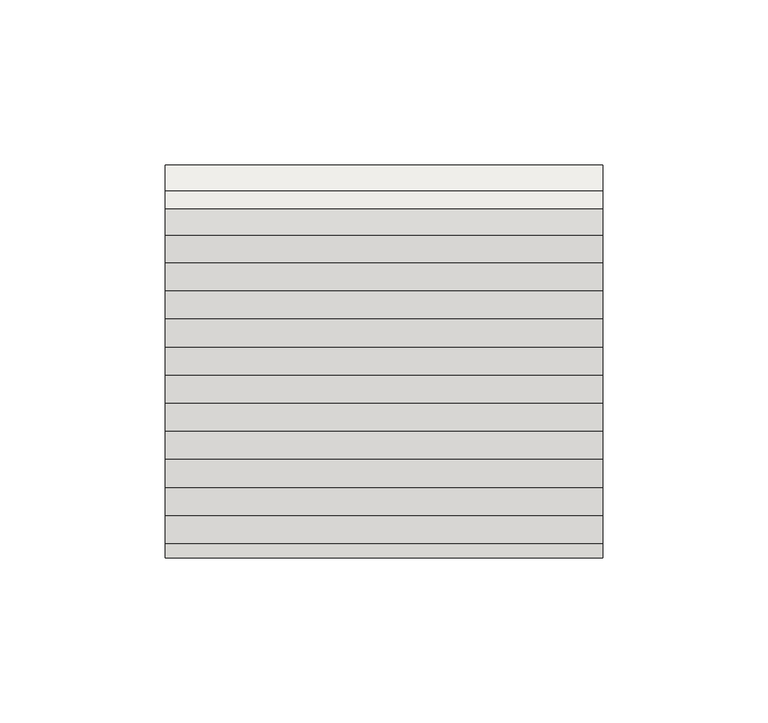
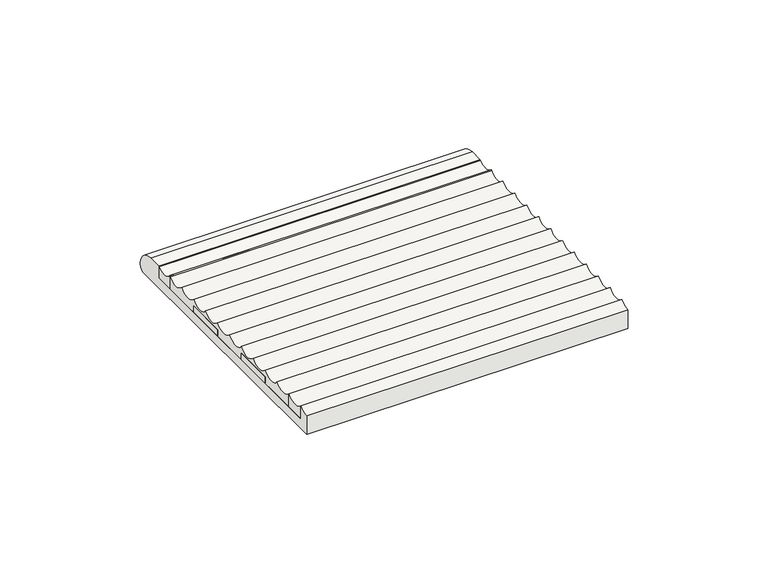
"""IFC4 building model written with IfcOpenShell, lengths in millimetres: slab geometry, ROSA GRES_003 : Pieza 003_Aqua_Marino_Anti-Slip."""

import ifcopenshell
import ifcopenshell.guid

model = None  # the IFC model being written
_history = None  # IfcOwnerHistory: only IFC2X3 demands one
_inside = {}  # id of a spatial element -> (the spatial element, [elements in it])
_under = {}  # id of a project, library or spatial element -> (it, [spatial elements below it])
_declared = {}  # id of a project -> (the project, [libraries it declares])
_typed = {}  # id of a type object -> (the type object, [elements of that type])
_made_of = {}  # id of a material, layer set ... -> (it, [elements and type objects made of it])


def new_model(schema):
    """Start an empty IFC model of exactly this schema.

    Asked for "IFC4X3", IfcOpenShell would pick the latest addendum, in which some entities
    have other attributes; the version numbers below select the first issue.
    IFC2X3 requires an IfcOwnerHistory on every rooted entity: one is made here for all.
    """
    global model, _history
    if schema == "IFC4X3":
        model = ifcopenshell.file(schema_version=(4, 3, 0, 0))
    else:
        model = ifcopenshell.file(schema=schema)
    _inside.clear()
    _under.clear()
    _declared.clear()
    _typed.clear()
    _made_of.clear()
    _history = None
    if model.schema == "IFC2X3":
        org = make("IfcOrganization", Name="unknown")
        user = make(
            "IfcPersonAndOrganization",
            ThePerson=make("IfcPerson", FamilyName="unknown"),
            TheOrganization=org,
        )
        app = make(
            "IfcApplication",
            ApplicationDeveloper=org,
            Version="unknown",
            ApplicationFullName="unknown",
            ApplicationIdentifier="unknown",
        )
        _history = make(
            "IfcOwnerHistory",
            OwningUser=user,
            OwningApplication=app,
            ChangeAction="ADDED",
            CreationDate=0,
        )
    return model


def make(cls, **values):
    """One entity of the class cls with the attributes given. An attribute that is None is left unset."""
    return model.create_entity(
        cls, **{name: value for name, value in values.items() if value is not None}
    )


def rooted(cls, **values):
    """An entity with a GlobalId (a new one), such as an element, a storey or a relation."""
    return make(cls, GlobalId=ifcopenshell.guid.new(), OwnerHistory=_history, **values)


def si_unit(unit_type, name, prefix=None):
    """IfcSIUnit, for example si_unit("LENGTHUNIT", "METRE", prefix="MILLI")."""
    return make("IfcSIUnit", UnitType=unit_type, Prefix=prefix, Name=name)


def assignment(units):
    """IfcUnitAssignment: the units of a project."""
    return None if units is None else make("IfcUnitAssignment", Units=units)


def point(xyz):
    """IfcCartesianPoint."""
    return None if xyz is None else make("IfcCartesianPoint", Coordinates=xyz)


def direction(xyz):
    """IfcDirection."""
    return None if xyz is None else make("IfcDirection", DirectionRatios=xyz)


def frame(location, z_axis=None, x_axis=None):
    """IfcAxis2Placement3D, a coordinate frame: its origin and axes. An axis left out is left unset."""
    return make(
        "IfcAxis2Placement3D",
        Location=point(location),
        Axis=direction(z_axis),
        RefDirection=direction(x_axis),
    )


def frame_2d(location, x_axis=None):
    """IfcAxis2Placement2D, a coordinate frame in the plane: its origin and x axis."""
    return make(
        "IfcAxis2Placement2D", Location=point(location), RefDirection=direction(x_axis)
    )


def origin():
    """The frame at (0, 0, 0) with its axes left unset."""
    return frame((0.0, 0.0, 0.0))


def place(relative_to, where):
    """IfcLocalPlacement: puts the frame where relative to a parent placement (None: the world)."""
    return make(
        "IfcLocalPlacement", PlacementRelTo=relative_to, RelativePlacement=where
    )


def context(
    kind, dimensions, precision=None, world=None, true_north=None, identifier=None
):
    """IfcGeometricRepresentationContext, for example the 3D "Model" context."""
    return make(
        "IfcGeometricRepresentationContext",
        ContextIdentifier=identifier,
        ContextType=kind,
        CoordinateSpaceDimension=dimensions,
        Precision=precision,
        WorldCoordinateSystem=world,
        TrueNorth=true_north,
    )


def project(units=None, contexts=None):
    """IfcProject with its units and contexts."""
    return rooted(
        "IfcProject",
        Name="project",
        RepresentationContexts=contexts,
        UnitsInContext=assignment(units),
    )


def spatial(cls, under=None, at=None, **own):
    """A site, building, storey or space (cls), placed at a placement, below another one or the project."""
    s = rooted(cls, ObjectPlacement=at, **own)
    if under is not None:
        _under.setdefault(under.id(), (under, []))[1].append(s)
    return s


def polyline(points):
    """IfcPolyline through the points."""
    return make("IfcPolyline", Points=[point(p) for p in points])


def circle_curve(where, radius):
    """IfcCircle in the frame where."""
    return make("IfcCircle", Position=where, Radius=radius)


def trimmed(basis, trim1, trim2, sense, master):
    """IfcTrimmedCurve: the piece of a basis curve between two trims."""
    return make(
        "IfcTrimmedCurve",
        BasisCurve=basis,
        Trim1=trim1,
        Trim2=trim2,
        SenseAgreement=sense,
        MasterRepresentation=master,
    )


def segment(curve, same_sense, transition):
    """IfcCompositeCurveSegment."""
    return make(
        "IfcCompositeCurveSegment",
        Transition=transition,
        SameSense=same_sense,
        ParentCurve=curve,
    )


def composite_curve(segments, self_intersect=None):
    """IfcCompositeCurve: segments joined end to end."""
    return make("IfcCompositeCurve", Segments=segments, SelfIntersect=self_intersect)


def outline(outer, holes=None, kind="AREA"):
    """IfcArbitraryClosedProfileDef: a profile drawn as a closed curve; with holes, ...WithVoids."""
    if holes is None:
        return make("IfcArbitraryClosedProfileDef", ProfileType=kind, OuterCurve=outer)
    return make(
        "IfcArbitraryProfileDefWithVoids",
        ProfileType=kind,
        OuterCurve=outer,
        InnerCurves=holes,
    )


def extrude(swept, where, along, depth):
    """IfcExtrudedAreaSolid: the profile swept, set in the frame where, extruded along a direction by depth."""
    return make(
        "IfcExtrudedAreaSolid",
        SweptArea=swept,
        Position=where,
        ExtrudedDirection=direction(along),
        Depth=depth,
    )


def shape(context_of_items, identifier, shape_type, items):
    """IfcShapeRepresentation: the items that make up one representation, for example the "Body"."""
    return make(
        "IfcShapeRepresentation",
        ContextOfItems=context_of_items,
        RepresentationIdentifier=identifier,
        RepresentationType=shape_type,
        Items=items,
    )


def source(mapping_origin, context_of_items, identifier, shape_type, items):
    """IfcRepresentationMap: a shape defined once, which mapped items show again and again."""
    return make(
        "IfcRepresentationMap",
        MappingOrigin=mapping_origin,
        MappedRepresentation=shape(context_of_items, identifier, shape_type, items),
    )


def transform(
    local_origin,
    x_axis=None,
    y_axis=None,
    z_axis=None,
    scale=None,
    scale2=None,
    scale3=None,
    uniform=True,
):
    """IfcCartesianTransformationOperator3D, or its non-uniform kind. x_axis, y_axis, z_axis: its Axis1, 2, 3."""
    if uniform:
        return make(
            "IfcCartesianTransformationOperator3D",
            Axis1=direction(x_axis),
            Axis2=direction(y_axis),
            LocalOrigin=point(local_origin),
            Scale=scale,
            Axis3=direction(z_axis),
        )
    return make(
        "IfcCartesianTransformationOperator3DnonUniform",
        Axis1=direction(x_axis),
        Axis2=direction(y_axis),
        LocalOrigin=point(local_origin),
        Scale=scale,
        Axis3=direction(z_axis),
        Scale2=scale2,
        Scale3=scale3,
    )


def mapped(mapping_source, mapping_target):
    """IfcMappedItem: shows the shape of a source again, moved by a transform."""
    return make(
        "IfcMappedItem", MappingSource=mapping_source, MappingTarget=mapping_target
    )


def made_of(thing, what):
    """Note that an element or type object is made of a material, layer set ...; save() writes the relation."""
    if what is not None:
        _made_of.setdefault(what.id(), (what, []))[1].append(thing)
    return thing


def element(
    cls,
    number,
    at=None,
    inside=None,
    cuts=None,
    type_object=None,
    material=None,
    context=None,
    identifier="Body",
    shape_type=None,
    held_by="IfcProductDefinitionShape",
    body=None,
    shapes=None,
    **own,
):
    """One element of the class cls, such as IfcWall. Its Tag is "e" and its number.

    at: its placement. inside: the storey or other place that contains it. cuts: it is an
    opening in that element (IfcRelVoidsElement). A single representation is given by context,
    identifier, shape_type and body (its items); several are given by shapes. held_by: the class
    of the entity that holds the representations. save() writes the other relations.
    """
    e = rooted(cls, Tag="e%d" % number, ObjectPlacement=at, **own)
    if body is not None:
        shapes = [shape(context, identifier, shape_type, body)]
    if shapes is not None:
        e.Representation = make(held_by, Representations=shapes)
    if inside is not None:
        _inside.setdefault(inside.id(), (inside, []))[1].append(e)
    if cuts is not None:
        rooted(
            "IfcRelVoidsElement", RelatingBuildingElement=cuts, RelatedOpeningElement=e
        )
    if type_object is not None:
        _typed.setdefault(type_object.id(), (type_object, []))[1].append(e)
    return made_of(e, material)


def aggregate(whole, parts):
    """IfcRelAggregates: a whole, such as a stair, and the parts it consists of."""
    return rooted("IfcRelAggregates", RelatingObject=whole, RelatedObjects=parts)


def save(model, path):
    """Write the relations noted so far, then the file.

    IfcRelAggregates (storeys below a building ...), IfcRelContainedInSpatialStructure (elements
    in a storey), IfcRelDefinesByType, IfcRelAssociatesMaterial and IfcRelDeclares: one each for
    every whole, place, type object, material and project.
    """
    for whole, parts in _under.values():
        aggregate(whole, parts)
    for where, things in _inside.values():
        rooted(
            "IfcRelContainedInSpatialStructure",
            RelatedElements=things,
            RelatingStructure=where,
        )
    for kind, things in _typed.values():
        rooted("IfcRelDefinesByType", RelatedObjects=things, RelatingType=kind)
    for what, things in _made_of.values():
        rooted("IfcRelAssociatesMaterial", RelatedObjects=things, RelatingMaterial=what)
    for by, libraries in _declared.values():
        rooted("IfcRelDeclares", RelatingContext=by, RelatedDefinitions=libraries)
    model.write(path)


def slab_0a70d6de(model_context):
    return source(origin(), model_context, "Body", "SweptSolid", [
        extrude(outline(composite_curve([segment(trimmed(circle_curve(frame_2d((-7.6419163, 1.7573601)), 7.7398374), [point((-7.6419163, 9.4971975))], [point((0.0, 2.9846331))], False, "CARTESIAN"), True, "CONTINUOUS"), segment(trimmed(circle_curve(frame_2d((-1.9104791, 2.6778148)), 1.9349594), [point((0.0, 2.9846331))], [point((-0.5422562, 1.309592))], False, "CARTESIAN"), True, "CONTINUOUS"), segment(polyline([(-0.5422562, 1.309592), (-1.8518481, 0.0), (-118.9168888, 0.0), (-118.9168888, 8.0603545)]), True, "CONTINUOUS"), segment(trimmed(circle_curve(frame_2d((-118.9168888, 13.6516438)), 5.5912893), [point((-118.9168888, 8.0603545))], [point((-114.6668888, 10.0184612))], True, "CARTESIAN"), True, "CONTINUOUS"), segment(polyline([(-114.6668888, 10.0184612), (-114.6668888, 4.0921512), (-13.1748183, 4.0921512), (-13.1748183, 9.4971975), (-7.6419163, 9.4971975)]), True, "CONTINUOUS")], self_intersect=False)), frame((0.0, 0.0, 0.0), z_axis=(1.0, 0.0, 0.0), x_axis=(0.0, 1.0, 0.0)), (0.0, 0.0, 1.0), 132.424729),
        extrude(outline(composite_curve([segment(polyline([(-106.1668888, 10.0184612), (-106.1668888, 4.0921512), (-114.6668888, 4.0921512), (-114.6668888, 10.0184612)]), True, "CONTINUOUS"), segment(trimmed(circle_curve(frame_2d((-110.4168888, 13.6516438)), 5.5912893), [point((-114.6668888, 10.0184612))], [point((-106.1668888, 10.0184612))], True, "CARTESIAN"), True, "CONTINUOUS")], self_intersect=False)), frame((0.0, 0.0, 0.0), z_axis=(1.0, 0.0, 0.0), x_axis=(0.0, 1.0, 0.0)), (0.0, 0.0, 1.0), 132.424729),
        extrude(outline(polyline([(132.424729, -89.1668888), (0.0, -89.1668888), (0.0, -72.1668888), (132.424729, -72.1668888), (132.424729, -89.1668888)])), frame((0.0, 0.0, 4.0921512), z_axis=(0.0, 0.0, 1.0), x_axis=(1.0, 0.0, 0.0)), (0.0, 0.0, 1.0), 2.92631),
        extrude(outline(polyline([(132.424729, -55.1668888), (0.0, -55.1668888), (0.0, -38.1668888), (132.424729, -38.1668888), (132.424729, -55.1668888)])), frame((0.0, 0.0, 4.0921512), z_axis=(0.0, 0.0, 1.0), x_axis=(1.0, 0.0, 0.0)), (0.0, 0.0, 1.0), 2.92631),
        extrude(outline(composite_curve([segment(polyline([(-13.1748183, 9.4971975), (-13.1748183, 4.0921512), (-21.1668888, 4.0921512), (-21.1668888, 10.0184612)]), True, "CONTINUOUS"), segment(trimmed(circle_curve(frame_2d((-16.9168888, 13.6516438)), 5.5912893), [point((-21.1668888, 10.0184612))], [point((-13.1748183, 9.4971975))], True, "CARTESIAN"), True, "CONTINUOUS")], self_intersect=False)), frame((0.0, 0.0, 0.0), z_axis=(1.0, 0.0, 0.0), x_axis=(0.0, 1.0, 0.0)), (0.0, 0.0, 1.0), 132.424729),
        extrude(outline(composite_curve([segment(polyline([(-21.1668888, 10.0221512), (-21.1668888, 4.0921512), (-38.1668888, 4.0921512), (-38.1668888, 7.0184612), (-55.1668888, 7.0184612), (-55.1668888, 4.0921512), (-72.1668888, 4.0921512), (-72.1668888, 7.0184612), (-89.1668888, 7.0184612), (-89.1668888, 4.0921512), (-106.1668888, 4.0921512), (-106.1668888, 10.0221512)]), True, "CONTINUOUS"), segment(trimmed(circle_curve(frame_2d((-101.9168888, 13.6553338)), 5.5912893), [point((-106.1668888, 10.0221512))], [point((-97.6668888, 10.0221512))], True, "CARTESIAN"), True, "CONTINUOUS"), segment(trimmed(circle_curve(frame_2d((-93.4168888, 13.6553338)), 5.5912893), [point((-97.6668888, 10.0221512))], [point((-89.1668888, 10.0221512))], True, "CARTESIAN"), True, "CONTINUOUS"), segment(trimmed(circle_curve(frame_2d((-84.9168888, 13.6553338)), 5.5912893), [point((-89.1668888, 10.0221512))], [point((-80.6668888, 10.0221512))], True, "CARTESIAN"), True, "CONTINUOUS"), segment(trimmed(circle_curve(frame_2d((-76.4168888, 13.6553338)), 5.5912893), [point((-80.6668888, 10.0221512))], [point((-72.1668888, 10.0221512))], True, "CARTESIAN"), True, "CONTINUOUS"), segment(trimmed(circle_curve(frame_2d((-67.9168888, 13.6553338)), 5.5912893), [point((-72.1668888, 10.0221512))], [point((-63.6668888, 10.0221512))], True, "CARTESIAN"), True, "CONTINUOUS"), segment(trimmed(circle_curve(frame_2d((-59.4168888, 13.6553338)), 5.5912893), [point((-63.6668888, 10.0221512))], [point((-55.1668888, 10.0221512))], True, "CARTESIAN"), True, "CONTINUOUS"), segment(trimmed(circle_curve(frame_2d((-50.9168888, 13.6553338)), 5.5912893), [point((-55.1668888, 10.0221512))], [point((-46.6668888, 10.0221512))], True, "CARTESIAN"), True, "CONTINUOUS"), segment(trimmed(circle_curve(frame_2d((-42.4168888, 13.6553338)), 5.5912893), [point((-46.6668888, 10.0221512))], [point((-38.1668888, 10.0221512))], True, "CARTESIAN"), True, "CONTINUOUS"), segment(trimmed(circle_curve(frame_2d((-33.9168888, 13.6553338)), 5.5912893), [point((-38.1668888, 10.0221512))], [point((-29.6668888, 10.0221512))], True, "CARTESIAN"), True, "CONTINUOUS"), segment(trimmed(circle_curve(frame_2d((-25.4168888, 13.6553338)), 5.5912893), [point((-29.6668888, 10.0221512))], [point((-21.1668888, 10.0221512))], True, "CARTESIAN"), True, "CONTINUOUS")], self_intersect=False)), frame((0.0, 0.0, 0.0), z_axis=(1.0, 0.0, 0.0), x_axis=(0.0, 1.0, 0.0)), (0.0, 0.0, 1.0), 132.424729),
    ])


if __name__ == "__main__":
    model = new_model("IFC4")
    model_context = context("Model", 3, world=origin())
    ifc_project = project(units=[si_unit("LENGTHUNIT", "METRE", prefix="MILLI")], contexts=[model_context])
    site = spatial("IfcSite", under=ifc_project)
    building = spatial("IfcBuilding", under=site)
    placement = place(None, origin())
    slab_shape = slab_0a70d6de(model_context)
    element("IfcSlab", 1, ObjectType="ROSA GRES_003 : Pieza 003_Aqua_Marino_Anti-Slip", at=placement, inside=building, context=model_context, shape_type="MappedRepresentation", body=[
        mapped(slab_shape, transform((0.0, 0.0, 0.0), x_axis=(1.0, 0.0, 0.0), y_axis=(0.0, 1.0, 0.0), z_axis=(0.0, 0.0, 1.0))),
    ])
    save(model, "model.ifc")
